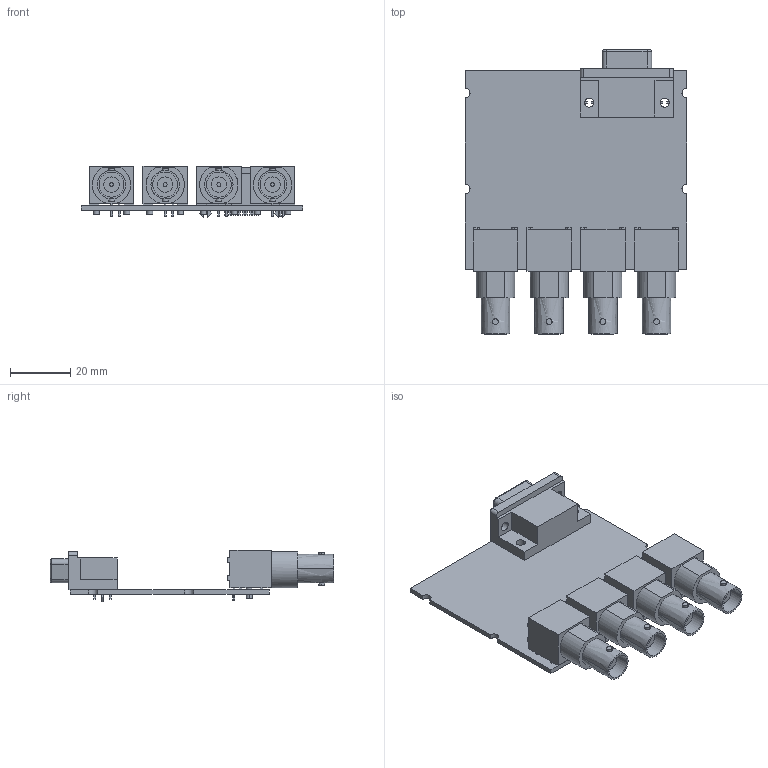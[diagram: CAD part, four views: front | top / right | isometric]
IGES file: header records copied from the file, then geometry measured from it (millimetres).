
Start section:  PTC IGES file: 4bnc.igs
Global section: file name: 4bnc.igs; native system: Pro/ENGINEER by Parametric Technology Corporation; preprocessor: 2006080; author: scarrasc; organization: Unknown; date: 100212.155053; units: inch
Bounding box: 73.38 x 94.06 x 17.22 mm (x, y, z)
Surface area: 21066.6 mm2 (no closed solid volume)
Topology: 0 solids, 0 shells, 592 faces, 2876 edges, 2872 vertices
Faces by surface type: bspline 340, revolution 252
